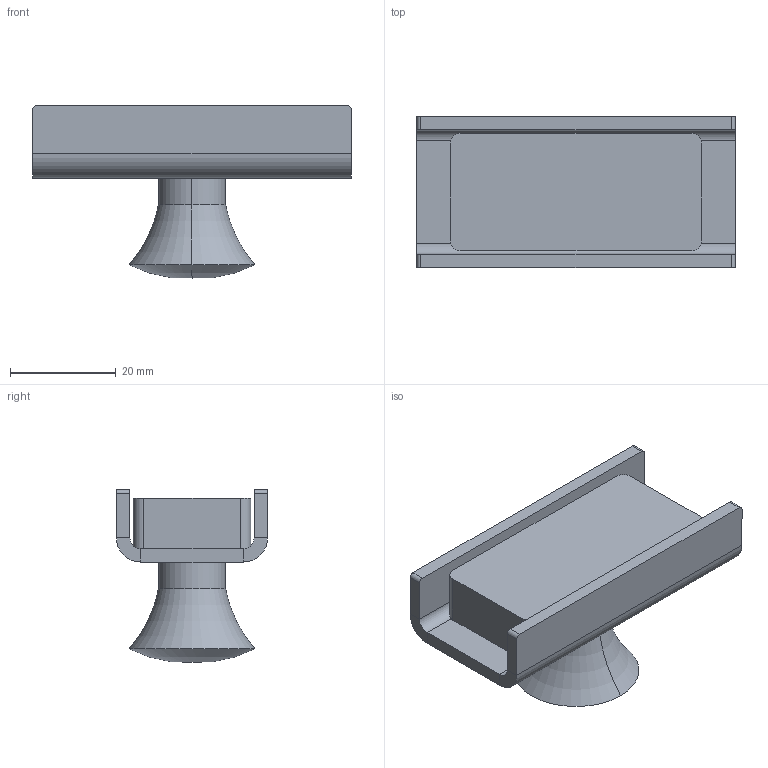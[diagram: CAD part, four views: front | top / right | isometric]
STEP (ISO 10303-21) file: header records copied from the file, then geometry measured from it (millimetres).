
FILE_DESCRIPTION (( 'STEP AP203' ), '1' );
FILE_NAME ('PH2100.STEP', '2018-10-29T13:20:05', ( '' ), ( '' ), 'SwSTEP 2.0', 'SolidWorks 2015', '' );
FILE_SCHEMA (( 'CONFIG_CONTROL_DESIGN' ));
Length unit declared in the file: inch
Products named in the file (1): PH2100
Bounding box: 60.33 x 28.57 x 32.7 mm (x, y, z)
Volume: 21226.4 mm3; surface area: 11302.3 mm2
Topology: 3 solids, 3 shells, 50 faces, 110 edges, 65 vertices
Faces by surface type: plane 26, cylinder 18, torus 4, cone 2
Entity records: 1427 total; most frequent: DIRECTION 254, CARTESIAN_POINT 224, ORIENTED_EDGE 216, EDGE_CURVE 108, AXIS2_PLACEMENT_3D 95, VERTEX_POINT 65, LINE 64, VECTOR 64
